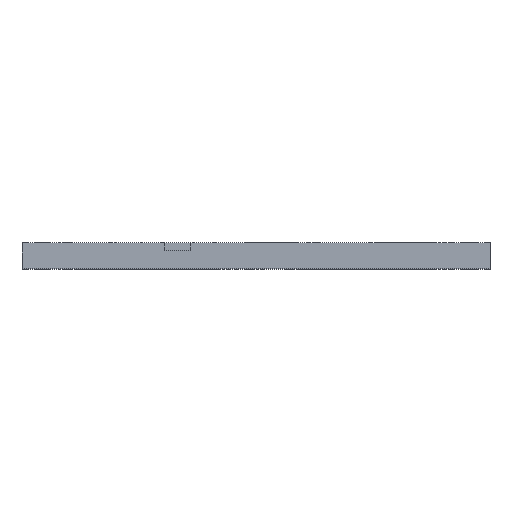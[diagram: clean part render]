
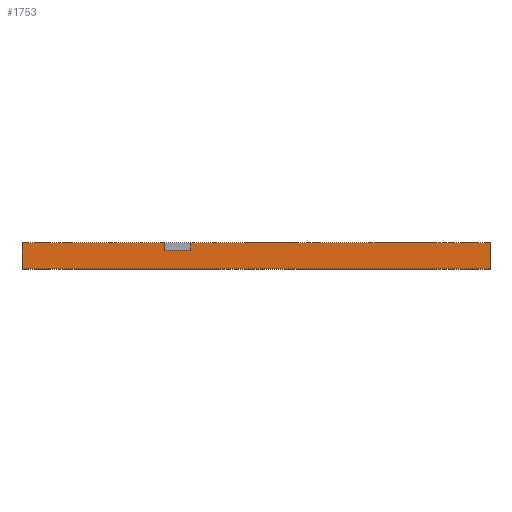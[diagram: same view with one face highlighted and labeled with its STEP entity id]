
A CAD part, top view. The second image highlights one B-rep face of the part: STEP entity #1753.
In plain terms, the highlighted planar face has unit normal (0, 0, 1).
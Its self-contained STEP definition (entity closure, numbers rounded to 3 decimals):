
#94=PLANE('',#1932);
#177=FACE_OUTER_BOUND('',#263,.T.);
#263=EDGE_LOOP('',(#1493,#1494,#1495,#1496,#1497,#1498,#1499,#1500));
#343=LINE('',#2548,#510);
#346=LINE('',#2554,#513);
#371=LINE('',#2674,#538);
#395=LINE('',#2737,#562);
#396=LINE('',#2740,#563);
#467=LINE('',#2928,#634);
#468=LINE('',#2929,#635);
#469=LINE('',#2930,#636);
#510=VECTOR('',#2039,10.);
#513=VECTOR('',#2044,10.);
#538=VECTOR('',#2179,10.);
#562=VECTOR('',#2239,10.);
#563=VECTOR('',#2242,10.);
#634=VECTOR('',#2427,10.);
#635=VECTOR('',#2428,10.);
#636=VECTOR('',#2429,10.);
#754=VERTEX_POINT('',#2534);
#760=VERTEX_POINT('',#2546);
#762=VERTEX_POINT('',#2552);
#800=VERTEX_POINT('',#2670);
#802=VERTEX_POINT('',#2673);
#822=VERTEX_POINT('',#2733);
#823=VERTEX_POINT('',#2735);
#824=VERTEX_POINT('',#2739);
#940=EDGE_CURVE('',#760,#754,#343,.T.);
#943=EDGE_CURVE('',#760,#762,#346,.T.);
#1002=EDGE_CURVE('',#800,#802,#371,.T.);
#1034=EDGE_CURVE('',#822,#823,#395,.T.);
#1035=EDGE_CURVE('',#754,#824,#396,.T.);
#1131=EDGE_CURVE('',#800,#822,#467,.T.);
#1132=EDGE_CURVE('',#824,#823,#468,.T.);
#1133=EDGE_CURVE('',#802,#762,#469,.T.);
#1493=ORIENTED_EDGE('',*,*,#1131,.T.);
#1494=ORIENTED_EDGE('',*,*,#1034,.T.);
#1495=ORIENTED_EDGE('',*,*,#1132,.F.);
#1496=ORIENTED_EDGE('',*,*,#1035,.F.);
#1497=ORIENTED_EDGE('',*,*,#940,.F.);
#1498=ORIENTED_EDGE('',*,*,#943,.T.);
#1499=ORIENTED_EDGE('',*,*,#1133,.F.);
#1500=ORIENTED_EDGE('',*,*,#1002,.F.);
#1753=ADVANCED_FACE('',(#177),#94,.T.);
#1932=AXIS2_PLACEMENT_3D('',#2927,#2425,#2426);
#2039=DIRECTION('',(1.,0.,0.));
#2044=DIRECTION('',(0.,1.,0.));
#2179=DIRECTION('',(0.,1.,0.));
#2239=DIRECTION('',(0.,1.,0.));
#2242=DIRECTION('',(0.,1.,0.));
#2425=DIRECTION('center_axis',(0.,0.,1.));
#2426=DIRECTION('ref_axis',(1.,0.,0.));
#2427=DIRECTION('',(1.,0.,0.));
#2428=DIRECTION('',(1.,0.,0.));
#2429=DIRECTION('',(1.,0.,0.));
#2534=CARTESIAN_POINT('',(32.5,3.5,88.));
#2546=CARTESIAN_POINT('',(27.5,3.5,88.));
#2548=CARTESIAN_POINT('',(27.5,3.5,88.));
#2552=CARTESIAN_POINT('',(27.5,5.,88.));
#2554=CARTESIAN_POINT('',(27.5,0.,88.));
#2670=CARTESIAN_POINT('',(0.,0.,88.));
#2673=CARTESIAN_POINT('',(0.,5.,88.));
#2674=CARTESIAN_POINT('',(0.,0.,88.));
#2733=CARTESIAN_POINT('',(90.,0.,88.));
#2735=CARTESIAN_POINT('',(90.,5.,88.));
#2737=CARTESIAN_POINT('',(90.,0.,88.));
#2739=CARTESIAN_POINT('',(32.5,5.,88.));
#2740=CARTESIAN_POINT('',(32.5,0.,88.));
#2927=CARTESIAN_POINT('Origin',(0.,0.,88.));
#2928=CARTESIAN_POINT('',(0.,0.,88.));
#2929=CARTESIAN_POINT('',(0.,5.,88.));
#2930=CARTESIAN_POINT('',(0.,5.,88.));
